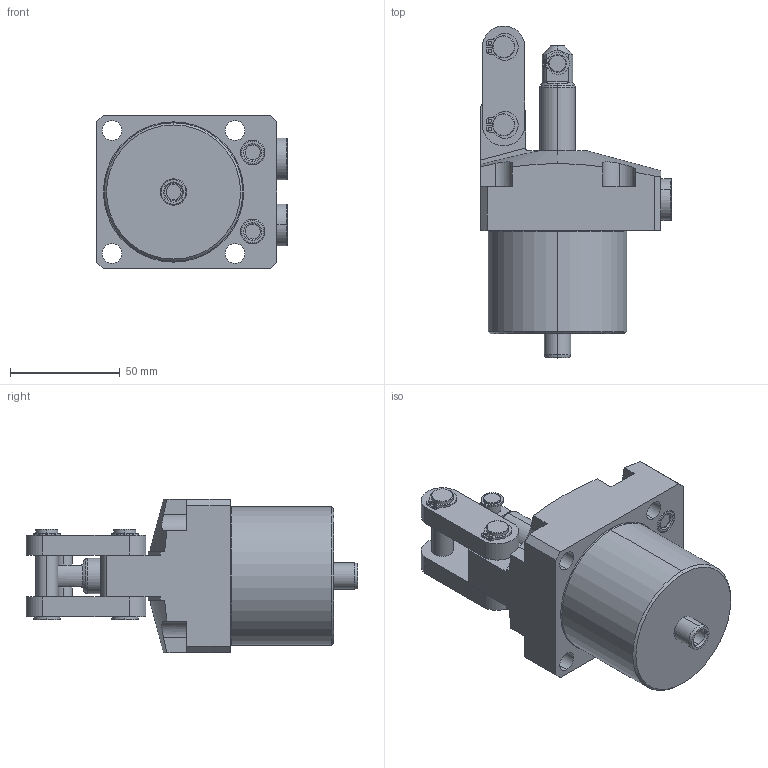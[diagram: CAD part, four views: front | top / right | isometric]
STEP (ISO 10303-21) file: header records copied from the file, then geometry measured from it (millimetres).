
FILE_DESCRIPTION(/* description */ (''),/* implementation_level */ '2;1');
FILE_NAME(/* name */ 'TPC10-FD.stp',/* time_stamp */ '2025-01-05T10:14:07+08:00',/* author */ (''),/* organization */ (''),/* preprocessor_version */ 'ST-DEVELOPER v16.7',/* originating_system */ 'SIEMENS PLM Software NX 12.0',/* authorisation */ '');
FILE_SCHEMA (('AUTOMOTIVE_DESIGN { 1 0 10303 214 3 1 1 1 }'));
Length unit declared in the file: millimetre
Products named in the file (5): TPC10-FD-04; TPC10-FD-03; TPC10-FD-02; TPC10-FD-01; TPC10-FD_stp
Assembly tree (5 placements, depth 2):
  TPC10-FD_stp
    TPC10-FD-01
    TPC10-FD-02
    TPC10-FD-03
    TPC10-FD-04  x2
Bounding box: 86.8 x 151 x 70 mm (x, y, z)
Volume: 353299.9 mm3; surface area: 56400.5 mm2
Topology: 5 solids, 7 shells, 297 faces, 699 edges, 444 vertices
Faces by surface type: cylinder 124, plane 114, torus 34, cone 25
Entity records: 8282 total; most frequent: CARTESIAN_POINT 1541, DIRECTION 1493, ORIENTED_EDGE 1306, EDGE_CURVE 653, AXIS2_PLACEMENT_3D 597, VERTEX_POINT 416, EDGE_LOOP 323, CIRCLE 316
